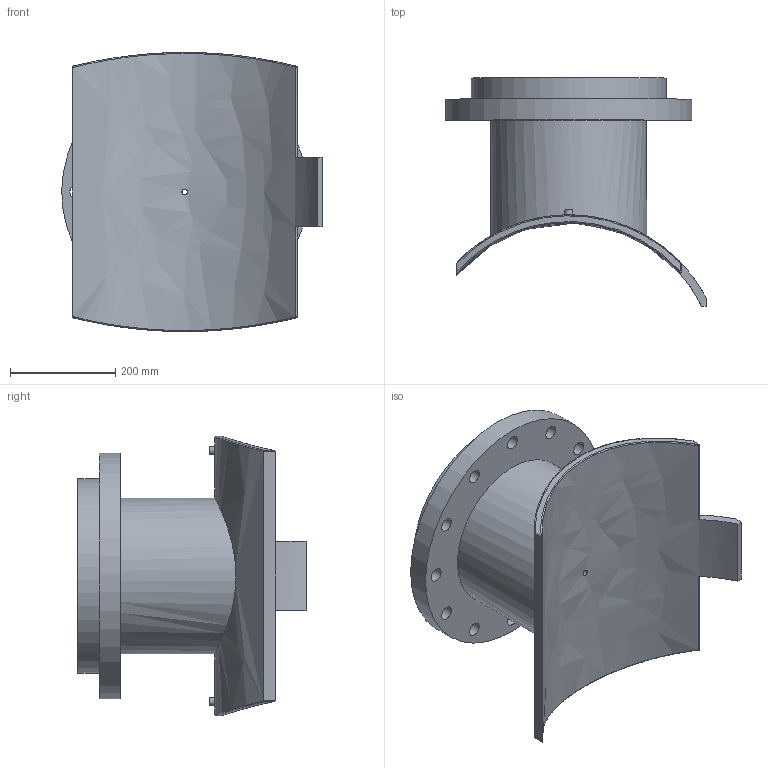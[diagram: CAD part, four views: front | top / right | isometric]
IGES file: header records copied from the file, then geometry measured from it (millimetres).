
Global section: file name: 495903560300T; native system: Autodesk Inventor 2019; preprocessor: unknown; author: KIM; date: 20240403.210450; units: millimetre
Bounding box: 494.73 x 432.98 x 529.97 mm (x, y, z)
Volume: 13957742.8 mm3; surface area: 1308843.8 mm2
Topology: 1 solids, 1 shells, 62 faces, 163 edges, 126 vertices
Faces by surface type: bspline 62
